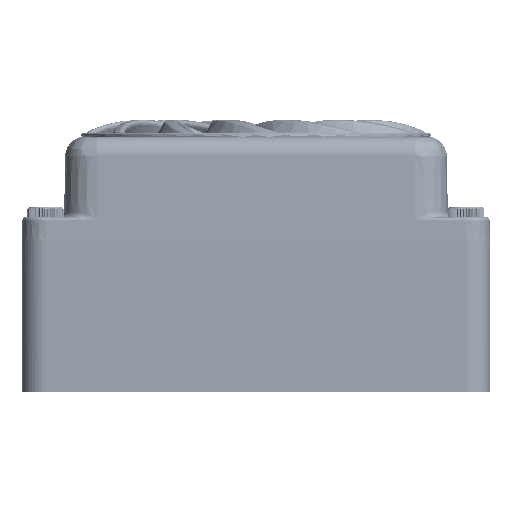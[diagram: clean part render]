
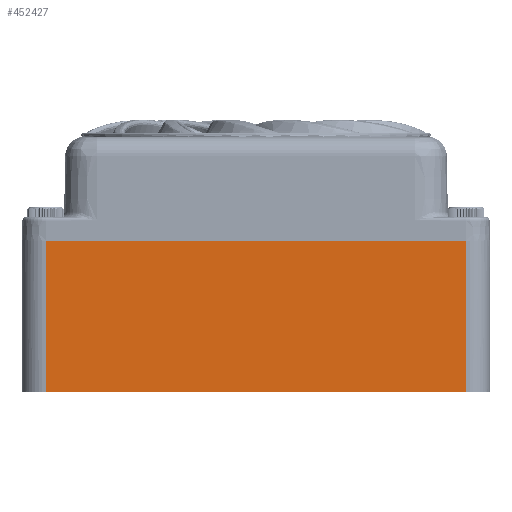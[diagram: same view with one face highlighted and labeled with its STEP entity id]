
A CAD part, left-side view. The second image highlights one B-rep face of the part: STEP entity #452427.
In plain terms, the highlighted planar face has unit normal (-1, 0, 0).
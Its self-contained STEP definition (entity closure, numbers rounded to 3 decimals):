
#57935=PLANE('',#485826);
#79005=FACE_OUTER_BOUND('',#102039,.T.);
#102039=EDGE_LOOP('',(#410748,#410749,#410750,#410751));
#148113=LINE('',#868712,#194350);
#148145=LINE('',#868848,#194382);
#148146=LINE('',#868851,#194383);
#148147=LINE('',#868852,#194384);
#194350=VECTOR('',#592550,62.399);
#194382=VECTOR('',#592710,22.5);
#194383=VECTOR('',#592713,62.399);
#194384=VECTOR('',#592714,22.5);
#241982=VERTEX_POINT('',#868709);
#241983=VERTEX_POINT('',#868711);
#242023=VERTEX_POINT('',#868846);
#242024=VERTEX_POINT('',#868850);
#305656=EDGE_CURVE('',#241983,#241982,#148113,.F.);
#305725=EDGE_CURVE('',#241982,#242023,#148145,.F.);
#305726=EDGE_CURVE('',#242023,#242024,#148146,.F.);
#305727=EDGE_CURVE('',#241983,#242024,#148147,.T.);
#410748=ORIENTED_EDGE('',*,*,#305656,.T.);
#410749=ORIENTED_EDGE('',*,*,#305725,.T.);
#410750=ORIENTED_EDGE('',*,*,#305726,.T.);
#410751=ORIENTED_EDGE('',*,*,#305727,.F.);
#452427=ADVANCED_FACE('',(#79005),#57935,.T.);
#485826=AXIS2_PLACEMENT_3D('',#868849,#592711,#592712);
#592550=DIRECTION('',(0.,-1.,0.));
#592710=DIRECTION('',(0.,0.,1.));
#592711=DIRECTION('center_axis',(-1.,0.,0.));
#592712=DIRECTION('ref_axis',(0.,0.,1.));
#592713=DIRECTION('',(0.,1.,0.));
#592714=DIRECTION('',(0.,0.,-1.));
#868709=CARTESIAN_POINT('',(9.907,66.,19.5));
#868711=CARTESIAN_POINT('',(9.907,3.601,19.5));
#868712=CARTESIAN_POINT('',(9.907,66.,19.5));
#868846=CARTESIAN_POINT('',(9.907,66.,-3.));
#868848=CARTESIAN_POINT('',(9.907,66.,-3.));
#868849=CARTESIAN_POINT('Origin',(9.907,66.,0.));
#868850=CARTESIAN_POINT('',(9.907,3.601,-3.));
#868851=CARTESIAN_POINT('',(9.907,3.601,-3.));
#868852=CARTESIAN_POINT('',(9.907,3.601,19.5));
